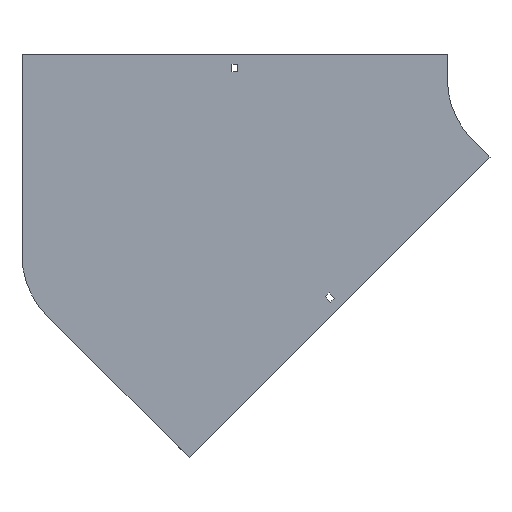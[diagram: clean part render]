
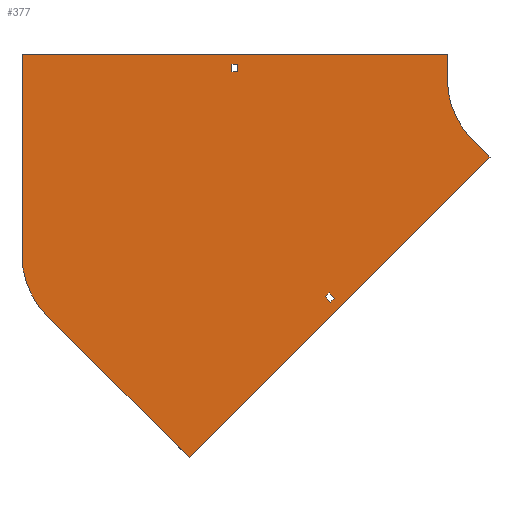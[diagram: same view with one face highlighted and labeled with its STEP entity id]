
A CAD part, front view. The second image highlights one B-rep face of the part: STEP entity #377.
In plain terms, the highlighted planar face has unit normal (0, -1, 0).
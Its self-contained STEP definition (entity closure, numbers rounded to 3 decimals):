
#20 = VERTEX_POINT ( 'NONE', #1133 ) ;
#42 = CARTESIAN_POINT ( 'NONE',  ( 0., 0., 0. ) ) ;
#68 = VECTOR ( 'NONE', #725, 1000. ) ;
#76 = CARTESIAN_POINT ( 'NONE',  ( -240.24, 0., -252.967 ) ) ;
#88 = ORIENTED_EDGE ( 'NONE', *, *, #1363, .F. ) ;
#110 = AXIS2_PLACEMENT_3D ( 'NONE', #1213, #329, #1534 ) ;
#114 = LINE ( 'NONE', #722, #1360 ) ;
#125 = VERTEX_POINT ( 'NONE', #76 ) ;
#139 = CARTESIAN_POINT ( 'NONE',  ( -604., 0., -208.764 ) ) ;
#144 = DIRECTION ( 'NONE',  ( 0.707, 0., -0.707 ) ) ;
#153 = EDGE_CURVE ( 'NONE', #1508, #1603, #114, .T. ) ;
#176 = CARTESIAN_POINT ( 'NONE',  ( 0., 0., 0. ) ) ;
#193 = EDGE_CURVE ( 'NONE', #1791, #901, #1873, .T. ) ;
#219 = EDGE_CURVE ( 'NONE', #591, #859, #455, .T. ) ;
#225 = DIRECTION ( 'NONE',  ( 0.707, 0., -0.707 ) ) ;
#230 = DIRECTION ( 'NONE',  ( -0.707, 0., -0.707 ) ) ;
#251 = EDGE_CURVE ( 'NONE', #1803, #1546, #1496, .T. ) ;
#269 = CARTESIAN_POINT ( 'NONE',  ( -355.25, 0., 9. ) ) ;
#278 = ORIENTED_EDGE ( 'NONE', *, *, #1029, .T. ) ;
#297 = DIRECTION ( 'NONE',  ( -1., 0., 0. ) ) ;
#327 = DIRECTION ( 'NONE',  ( 1., 0., 0. ) ) ;
#329 = DIRECTION ( 'NONE',  ( 0., 1., 0. ) ) ;
#330 = EDGE_CURVE ( 'NONE', #20, #1387, #1948, .T. ) ;
#339 = DIRECTION ( 'NONE',  ( 0., 0., -1. ) ) ;
#342 = AXIS2_PLACEMENT_3D ( 'NONE', #42, #1435, #1905 ) ;
#377 = ADVANCED_FACE ( 'NONE', ( #1683, #796, #933 ), #1521, .T. ) ;
#378 = VERTEX_POINT ( 'NONE', #1642 ) ;
#430 = CARTESIAN_POINT ( 'NONE',  ( -405.879, 0., -448.306 ) ) ;
#446 = CARTESIAN_POINT ( 'NONE',  ( -70.711, 0., -70.711 ) ) ;
#455 = LINE ( 'NONE', #607, #1558 ) ;
#485 = EDGE_CURVE ( 'NONE', #378, #739, #652, .T. ) ;
#534 = CARTESIAN_POINT ( 'NONE',  ( -238.472, 0., -263.928 ) ) ;
#543 = VECTOR ( 'NONE', #1293, 1000. ) ;
#557 = CARTESIAN_POINT ( 'NONE',  ( -348.75, 0., 18. ) ) ;
#574 = CARTESIAN_POINT ( 'NONE',  ( -244.836, 0., -257.564 ) ) ;
#585 = VECTOR ( 'NONE', #1731, 1000. ) ;
#591 = VERTEX_POINT ( 'NONE', #1594 ) ;
#599 = LINE ( 'NONE', #1066, #1115 ) ;
#607 = CARTESIAN_POINT ( 'NONE',  ( -355.25, 0., 18. ) ) ;
#622 = EDGE_CURVE ( 'NONE', #978, #1791, #1628, .T. ) ;
#623 = VECTOR ( 'NONE', #144, 1000. ) ;
#647 = ORIENTED_EDGE ( 'NONE', *, *, #485, .F. ) ;
#652 = CIRCLE ( 'NONE', #342, 100. ) ;
#667 = CARTESIAN_POINT ( 'NONE',  ( -49.497, 0., -91.924 ) ) ;
#676 = LINE ( 'NONE', #841, #1864 ) ;
#722 = CARTESIAN_POINT ( 'NONE',  ( -49.497, 0., -91.924 ) ) ;
#725 = DIRECTION ( 'NONE',  ( 0., 0., 1. ) ) ;
#738 = EDGE_CURVE ( 'NONE', #1676, #980, #1810, .T. ) ;
#739 = VERTEX_POINT ( 'NONE', #1795 ) ;
#767 = LINE ( 'NONE', #1348, #1323 ) ;
#768 = EDGE_LOOP ( 'NONE', ( #1329, #1423, #1298, #1840 ) ) ;
#775 = ORIENTED_EDGE ( 'NONE', *, *, #330, .F. ) ;
#783 = DIRECTION ( 'NONE',  ( 0., -1., 0. ) ) ;
#796 = FACE_OUTER_BOUND ( 'NONE', #1007, .T. ) ;
#841 = CARTESIAN_POINT ( 'NONE',  ( -348.75, 0., 9. ) ) ;
#849 = ORIENTED_EDGE ( 'NONE', *, *, #251, .T. ) ;
#859 = VERTEX_POINT ( 'NONE', #557 ) ;
#864 = LINE ( 'NONE', #430, #543 ) ;
#885 = DIRECTION ( 'NONE',  ( 1., 0., 0. ) ) ;
#901 = VERTEX_POINT ( 'NONE', #1466 ) ;
#933 = FACE_BOUND ( 'NONE', #768, .T. ) ;
#971 = AXIS2_PLACEMENT_3D ( 'NONE', #176, #783, #1368 ) ;
#978 = VERTEX_POINT ( 'NONE', #1316 ) ;
#980 = VERTEX_POINT ( 'NONE', #139 ) ;
#1007 = EDGE_LOOP ( 'NONE', ( #775, #1342, #1946, #1478, #1016, #1359, #647, #88 ) ) ;
#1016 = ORIENTED_EDGE ( 'NONE', *, *, #153, .F. ) ;
#1029 = EDGE_CURVE ( 'NONE', #1546, #591, #1434, .T. ) ;
#1052 = LINE ( 'NONE', #1814, #1844 ) ;
#1066 = CARTESIAN_POINT ( 'NONE',  ( -100., 0., 30. ) ) ;
#1070 = CARTESIAN_POINT ( 'NONE',  ( -238.472, 0., -263.928 ) ) ;
#1115 = VECTOR ( 'NONE', #339, 1000. ) ;
#1118 = VECTOR ( 'NONE', #225, 1000. ) ;
#1126 = EDGE_LOOP ( 'NONE', ( #278, #1702, #1552, #849 ) ) ;
#1133 = CARTESIAN_POINT ( 'NONE',  ( -604., 0., 30. ) ) ;
#1168 = LINE ( 'NONE', #1317, #1406 ) ;
#1213 = CARTESIAN_POINT ( 'NONE',  ( -504., 0., -208.764 ) ) ;
#1226 = EDGE_CURVE ( 'NONE', #1603, #1676, #864, .T. ) ;
#1231 = CARTESIAN_POINT ( 'NONE',  ( -348.75, 0., 9. ) ) ;
#1265 = DIRECTION ( 'NONE',  ( 0., 0., -1. ) ) ;
#1266 = VECTOR ( 'NONE', #327, 1000. ) ;
#1293 = DIRECTION ( 'NONE',  ( -0.707, 0., 0.707 ) ) ;
#1298 = ORIENTED_EDGE ( 'NONE', *, *, #1395, .F. ) ;
#1316 = CARTESIAN_POINT ( 'NONE',  ( -244.836, 0., -257.564 ) ) ;
#1317 = CARTESIAN_POINT ( 'NONE',  ( -604., 0., -208.764 ) ) ;
#1323 = VECTOR ( 'NONE', #1806, 1000. ) ;
#1329 = ORIENTED_EDGE ( 'NONE', *, *, #193, .F. ) ;
#1342 = ORIENTED_EDGE ( 'NONE', *, *, #1916, .F. ) ;
#1348 = CARTESIAN_POINT ( 'NONE',  ( -244.836, 0., -257.564 ) ) ;
#1359 = ORIENTED_EDGE ( 'NONE', *, *, #1722, .F. ) ;
#1360 = VECTOR ( 'NONE', #230, 1000. ) ;
#1363 = EDGE_CURVE ( 'NONE', #1387, #378, #599, .T. ) ;
#1366 = CARTESIAN_POINT ( 'NONE',  ( -574.711, 0., -279.474 ) ) ;
#1368 = DIRECTION ( 'NONE',  ( 0., 0., -1. ) ) ;
#1387 = VERTEX_POINT ( 'NONE', #1643 ) ;
#1395 = EDGE_CURVE ( 'NONE', #125, #978, #767, .T. ) ;
#1406 = VECTOR ( 'NONE', #1917, 1000. ) ;
#1423 = ORIENTED_EDGE ( 'NONE', *, *, #622, .F. ) ;
#1434 = LINE ( 'NONE', #269, #68 ) ;
#1435 = DIRECTION ( 'NONE',  ( 0., -1., 0. ) ) ;
#1449 = CARTESIAN_POINT ( 'NONE',  ( -405.879, 0., -448.306 ) ) ;
#1466 = CARTESIAN_POINT ( 'NONE',  ( -233.876, 0., -259.331 ) ) ;
#1478 = ORIENTED_EDGE ( 'NONE', *, *, #1226, .F. ) ;
#1496 = LINE ( 'NONE', #1767, #1618 ) ;
#1508 = VERTEX_POINT ( 'NONE', #667 ) ;
#1518 = EDGE_CURVE ( 'NONE', #859, #1803, #676, .T. ) ;
#1521 = PLANE ( 'NONE',  #971 ) ;
#1534 = DIRECTION ( 'NONE',  ( 0., 0., 1. ) ) ;
#1546 = VERTEX_POINT ( 'NONE', #1605 ) ;
#1552 = ORIENTED_EDGE ( 'NONE', *, *, #1518, .T. ) ;
#1558 = VECTOR ( 'NONE', #885, 1000. ) ;
#1594 = CARTESIAN_POINT ( 'NONE',  ( -355.25, 0., 18. ) ) ;
#1603 = VERTEX_POINT ( 'NONE', #1449 ) ;
#1605 = CARTESIAN_POINT ( 'NONE',  ( -355.25, 0., 9. ) ) ;
#1618 = VECTOR ( 'NONE', #297, 1000. ) ;
#1628 = LINE ( 'NONE', #574, #1118 ) ;
#1642 = CARTESIAN_POINT ( 'NONE',  ( -100., 0., 0. ) ) ;
#1643 = CARTESIAN_POINT ( 'NONE',  ( -100., 0., 30. ) ) ;
#1676 = VERTEX_POINT ( 'NONE', #1366 ) ;
#1683 = FACE_BOUND ( 'NONE', #1126, .T. ) ;
#1702 = ORIENTED_EDGE ( 'NONE', *, *, #219, .T. ) ;
#1722 = EDGE_CURVE ( 'NONE', #739, #1508, #1944, .T. ) ;
#1731 = DIRECTION ( 'NONE',  ( 0.707, 0., 0.707 ) ) ;
#1767 = CARTESIAN_POINT ( 'NONE',  ( -355.25, 0., 9. ) ) ;
#1772 = EDGE_CURVE ( 'NONE', #901, #125, #1052, .T. ) ;
#1791 = VERTEX_POINT ( 'NONE', #1070 ) ;
#1795 = CARTESIAN_POINT ( 'NONE',  ( -70.711, 0., -70.711 ) ) ;
#1802 = DIRECTION ( 'NONE',  ( -0.707, 0., 0.707 ) ) ;
#1803 = VERTEX_POINT ( 'NONE', #1231 ) ;
#1806 = DIRECTION ( 'NONE',  ( -0.707, 0., -0.707 ) ) ;
#1810 = CIRCLE ( 'NONE', #110, 100. ) ;
#1814 = CARTESIAN_POINT ( 'NONE',  ( -240.24, 0., -252.967 ) ) ;
#1833 = CARTESIAN_POINT ( 'NONE',  ( -604., 0., 30. ) ) ;
#1840 = ORIENTED_EDGE ( 'NONE', *, *, #1772, .F. ) ;
#1844 = VECTOR ( 'NONE', #1802, 1000. ) ;
#1864 = VECTOR ( 'NONE', #1265, 1000. ) ;
#1873 = LINE ( 'NONE', #534, #585 ) ;
#1905 = DIRECTION ( 'NONE',  ( 0., 0., -1. ) ) ;
#1916 = EDGE_CURVE ( 'NONE', #980, #20, #1168, .T. ) ;
#1917 = DIRECTION ( 'NONE',  ( 0., 0., 1. ) ) ;
#1944 = LINE ( 'NONE', #446, #623 ) ;
#1946 = ORIENTED_EDGE ( 'NONE', *, *, #738, .F. ) ;
#1948 = LINE ( 'NONE', #1833, #1266 ) ;
